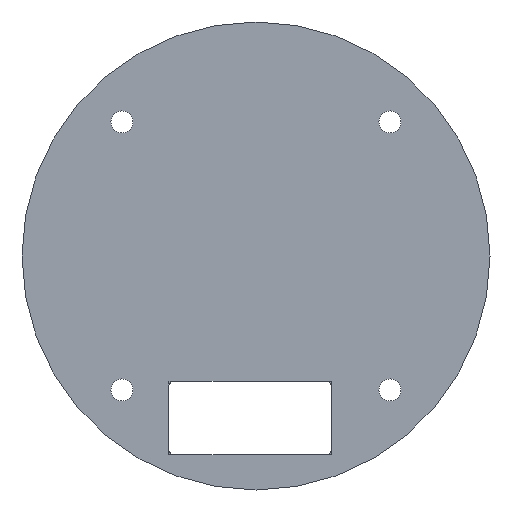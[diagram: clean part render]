
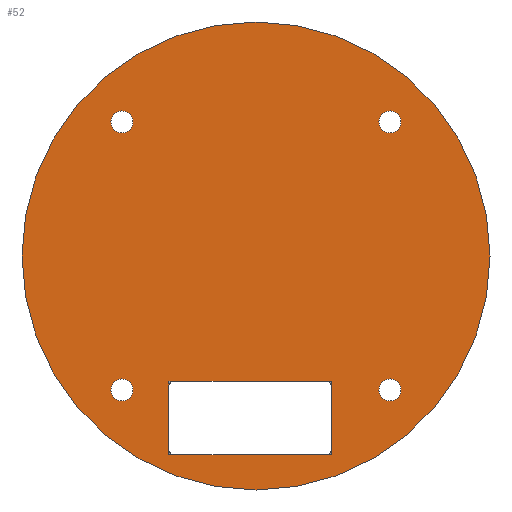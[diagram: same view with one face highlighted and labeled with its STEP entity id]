
A CAD part, left-side view. The second image highlights one B-rep face of the part: STEP entity #52.
In plain terms, the highlighted planar face has unit normal (-1, 0, 0).
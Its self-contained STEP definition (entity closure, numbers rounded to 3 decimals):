
#27=FACE_BOUND('',#108,.F.);
#28=FACE_BOUND('',#109,.F.);
#29=FACE_BOUND('',#110,.F.);
#30=FACE_BOUND('',#111,.F.);
#31=FACE_BOUND('',#112,.F.);
#37=PLANE('',#564);
#52=ADVANCED_FACE('',(#27,#28,#29,#30,#31,#80),#37,.T.);
#80=FACE_OUTER_BOUND('',#113,.F.);
#108=EDGE_LOOP('',(#149,#150));
#109=EDGE_LOOP('',(#151,#152));
#110=EDGE_LOOP('',(#153,#154));
#111=EDGE_LOOP('',(#155,#156));
#112=EDGE_LOOP('',(#157,#158,#159,#160,#161,#162,#163,#164,#165,#166,#167,
#168));
#113=EDGE_LOOP('',(#169,#170));
#149=ORIENTED_EDGE('',*,*,#362,.T.);
#150=ORIENTED_EDGE('',*,*,#361,.T.);
#151=ORIENTED_EDGE('',*,*,#370,.T.);
#152=ORIENTED_EDGE('',*,*,#369,.T.);
#153=ORIENTED_EDGE('',*,*,#374,.T.);
#154=ORIENTED_EDGE('',*,*,#373,.T.);
#155=ORIENTED_EDGE('',*,*,#366,.T.);
#156=ORIENTED_EDGE('',*,*,#365,.T.);
#157=ORIENTED_EDGE('',*,*,#356,.T.);
#158=ORIENTED_EDGE('',*,*,#358,.T.);
#159=ORIENTED_EDGE('',*,*,#339,.T.);
#160=ORIENTED_EDGE('',*,*,#338,.T.);
#161=ORIENTED_EDGE('',*,*,#340,.T.);
#162=ORIENTED_EDGE('',*,*,#345,.T.);
#163=ORIENTED_EDGE('',*,*,#344,.T.);
#164=ORIENTED_EDGE('',*,*,#346,.T.);
#165=ORIENTED_EDGE('',*,*,#351,.T.);
#166=ORIENTED_EDGE('',*,*,#350,.T.);
#167=ORIENTED_EDGE('',*,*,#352,.T.);
#168=ORIENTED_EDGE('',*,*,#357,.T.);
#169=ORIENTED_EDGE('',*,*,#379,.F.);
#170=ORIENTED_EDGE('',*,*,#375,.F.);
#309=CIRCLE('',#537,1.1);
#310=CIRCLE('',#538,1.1);
#313=CIRCLE('',#541,1.1);
#314=CIRCLE('',#542,1.1);
#317=CIRCLE('',#545,1.1);
#318=CIRCLE('',#546,1.1);
#321=CIRCLE('',#549,1.1);
#322=CIRCLE('',#550,1.1);
#323=CIRCLE('',#551,23.4);
#325=CIRCLE('',#553,23.4);
#338=EDGE_CURVE('',#528,#527,#408,.T.);
#339=EDGE_CURVE('',#526,#528,#409,.T.);
#340=EDGE_CURVE('',#527,#525,#410,.T.);
#344=EDGE_CURVE('',#521,#520,#414,.T.);
#345=EDGE_CURVE('',#525,#521,#415,.T.);
#346=EDGE_CURVE('',#520,#519,#416,.T.);
#350=EDGE_CURVE('',#515,#514,#420,.T.);
#351=EDGE_CURVE('',#519,#515,#421,.T.);
#352=EDGE_CURVE('',#514,#513,#422,.T.);
#356=EDGE_CURVE('',#510,#509,#426,.T.);
#357=EDGE_CURVE('',#513,#510,#427,.T.);
#358=EDGE_CURVE('',#509,#526,#428,.T.);
#361=EDGE_CURVE('',#506,#505,#309,.T.);
#362=EDGE_CURVE('',#505,#506,#310,.T.);
#365=EDGE_CURVE('',#502,#501,#313,.T.);
#366=EDGE_CURVE('',#501,#502,#314,.T.);
#369=EDGE_CURVE('',#498,#497,#317,.T.);
#370=EDGE_CURVE('',#497,#498,#318,.T.);
#373=EDGE_CURVE('',#494,#493,#321,.T.);
#374=EDGE_CURVE('',#493,#494,#322,.T.);
#375=EDGE_CURVE('',#492,#491,#323,.T.);
#379=EDGE_CURVE('',#491,#492,#325,.T.);
#408=LINE('',#798,#450);
#409=LINE('',#799,#451);
#410=LINE('',#800,#452);
#414=LINE('',#804,#456);
#415=LINE('',#805,#457);
#416=LINE('',#806,#458);
#420=LINE('',#810,#462);
#421=LINE('',#811,#463);
#422=LINE('',#812,#464);
#426=LINE('',#816,#468);
#427=LINE('',#817,#469);
#428=LINE('',#818,#470);
#450=VECTOR('',#597,0.5);
#451=VECTOR('',#598,6.35);
#452=VECTOR('',#599,0.5);
#456=VECTOR('',#603,0.5);
#457=VECTOR('',#604,15.24);
#458=VECTOR('',#605,0.5);
#462=VECTOR('',#609,0.5);
#463=VECTOR('',#610,6.35);
#464=VECTOR('',#611,0.5);
#468=VECTOR('',#615,0.5);
#469=VECTOR('',#616,15.24);
#470=VECTOR('',#617,0.5);
#491=VERTEX_POINT('',#753);
#492=VERTEX_POINT('',#754);
#493=VERTEX_POINT('',#755);
#494=VERTEX_POINT('',#756);
#497=VERTEX_POINT('',#759);
#498=VERTEX_POINT('',#760);
#501=VERTEX_POINT('',#763);
#502=VERTEX_POINT('',#764);
#505=VERTEX_POINT('',#767);
#506=VERTEX_POINT('',#768);
#509=VERTEX_POINT('',#771);
#510=VERTEX_POINT('',#772);
#513=VERTEX_POINT('',#775);
#514=VERTEX_POINT('',#776);
#515=VERTEX_POINT('',#777);
#519=VERTEX_POINT('',#781);
#520=VERTEX_POINT('',#782);
#521=VERTEX_POINT('',#783);
#525=VERTEX_POINT('',#787);
#526=VERTEX_POINT('',#788);
#527=VERTEX_POINT('',#789);
#528=VERTEX_POINT('',#790);
#537=AXIS2_PLACEMENT_3D('',#821,#622,#623);
#538=AXIS2_PLACEMENT_3D('',#822,#624,#625);
#541=AXIS2_PLACEMENT_3D('',#825,#630,#631);
#542=AXIS2_PLACEMENT_3D('',#826,#632,#633);
#545=AXIS2_PLACEMENT_3D('',#829,#638,#639);
#546=AXIS2_PLACEMENT_3D('',#830,#640,#641);
#549=AXIS2_PLACEMENT_3D('',#833,#646,#647);
#550=AXIS2_PLACEMENT_3D('',#834,#648,#649);
#551=AXIS2_PLACEMENT_3D('',#835,#650,#651);
#553=AXIS2_PLACEMENT_3D('',#839,#656,#657);
#564=AXIS2_PLACEMENT_3D('',#866,#694,#695);
#597=DIRECTION('',(0.,0.,-1.));
#598=DIRECTION('',(0.,0.,-1.));
#599=DIRECTION('',(0.,-1.,0.));
#603=DIRECTION('',(0.,-1.,0.));
#604=DIRECTION('',(0.,-1.,0.));
#605=DIRECTION('',(0.,0.,1.));
#609=DIRECTION('',(0.,0.,1.));
#610=DIRECTION('',(0.,0.,1.));
#611=DIRECTION('',(0.,1.,0.));
#615=DIRECTION('',(0.,1.,0.));
#616=DIRECTION('',(0.,1.,0.));
#617=DIRECTION('',(0.,0.,-1.));
#622=DIRECTION('',(-1.,0.,0.));
#623=DIRECTION('',(0.,0.,1.));
#624=DIRECTION('',(-1.,0.,0.));
#625=DIRECTION('',(0.,0.,-1.));
#630=DIRECTION('',(-1.,0.,0.));
#631=DIRECTION('',(0.,0.,1.));
#632=DIRECTION('',(-1.,0.,0.));
#633=DIRECTION('',(0.,0.,-1.));
#638=DIRECTION('',(-1.,0.,0.));
#639=DIRECTION('',(0.,0.,1.));
#640=DIRECTION('',(-1.,0.,0.));
#641=DIRECTION('',(0.,0.,-1.));
#646=DIRECTION('',(-1.,0.,0.));
#647=DIRECTION('',(0.,0.,1.));
#648=DIRECTION('',(-1.,0.,0.));
#649=DIRECTION('',(0.,0.,-1.));
#650=DIRECTION('',(-1.,0.,0.));
#651=DIRECTION('',(0.,0.,-1.));
#656=DIRECTION('',(-1.,0.,0.));
#657=DIRECTION('',(0.,0.,1.));
#694=DIRECTION('',(-1.,0.,0.));
#695=DIRECTION('',(0.,1.,0.));
#753=CARTESIAN_POINT('',(14.175,0.,23.4));
#754=CARTESIAN_POINT('',(14.175,0.,-23.4));
#755=CARTESIAN_POINT('',(14.175,-13.4,-14.5));
#756=CARTESIAN_POINT('',(14.175,-13.4,-12.3));
#759=CARTESIAN_POINT('',(14.175,13.4,-14.5));
#760=CARTESIAN_POINT('',(14.175,13.4,-12.3));
#763=CARTESIAN_POINT('',(14.175,13.4,12.3));
#764=CARTESIAN_POINT('',(14.175,13.4,14.5));
#767=CARTESIAN_POINT('',(14.175,-13.4,12.3));
#768=CARTESIAN_POINT('',(14.175,-13.4,14.5));
#771=CARTESIAN_POINT('',(14.175,8.71,-12.525));
#772=CARTESIAN_POINT('',(14.175,8.21,-12.525));
#775=CARTESIAN_POINT('',(14.175,-7.03,-12.525));
#776=CARTESIAN_POINT('',(14.175,-7.53,-12.525));
#777=CARTESIAN_POINT('',(14.175,-7.53,-13.025));
#781=CARTESIAN_POINT('',(14.175,-7.53,-19.375));
#782=CARTESIAN_POINT('',(14.175,-7.53,-19.875));
#783=CARTESIAN_POINT('',(14.175,-7.03,-19.875));
#787=CARTESIAN_POINT('',(14.175,8.21,-19.875));
#788=CARTESIAN_POINT('',(14.175,8.71,-13.025));
#789=CARTESIAN_POINT('',(14.175,8.71,-19.875));
#790=CARTESIAN_POINT('',(14.175,8.71,-19.375));
#798=CARTESIAN_POINT('',(14.175,8.71,-19.375));
#799=CARTESIAN_POINT('',(14.175,8.71,-13.025));
#800=CARTESIAN_POINT('',(14.175,8.71,-19.875));
#804=CARTESIAN_POINT('',(14.175,-7.03,-19.875));
#805=CARTESIAN_POINT('',(14.175,8.21,-19.875));
#806=CARTESIAN_POINT('',(14.175,-7.53,-19.875));
#810=CARTESIAN_POINT('',(14.175,-7.53,-13.025));
#811=CARTESIAN_POINT('',(14.175,-7.53,-19.375));
#812=CARTESIAN_POINT('',(14.175,-7.53,-12.525));
#816=CARTESIAN_POINT('',(14.175,8.21,-12.525));
#817=CARTESIAN_POINT('',(14.175,-7.03,-12.525));
#818=CARTESIAN_POINT('',(14.175,8.71,-12.525));
#821=CARTESIAN_POINT('',(14.175,-13.4,13.4));
#822=CARTESIAN_POINT('',(14.175,-13.4,13.4));
#825=CARTESIAN_POINT('',(14.175,13.4,13.4));
#826=CARTESIAN_POINT('',(14.175,13.4,13.4));
#829=CARTESIAN_POINT('',(14.175,13.4,-13.4));
#830=CARTESIAN_POINT('',(14.175,13.4,-13.4));
#833=CARTESIAN_POINT('',(14.175,-13.4,-13.4));
#834=CARTESIAN_POINT('',(14.175,-13.4,-13.4));
#835=CARTESIAN_POINT('',(14.175,0.,0.));
#839=CARTESIAN_POINT('',(14.175,0.,0.));
#866=CARTESIAN_POINT('',(14.175,-23.868,23.868));
